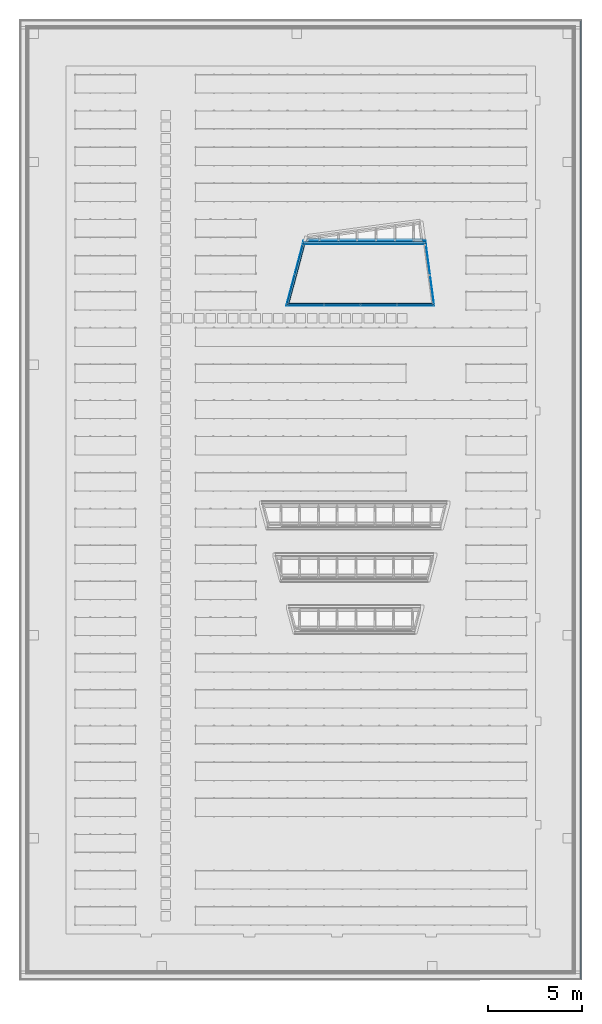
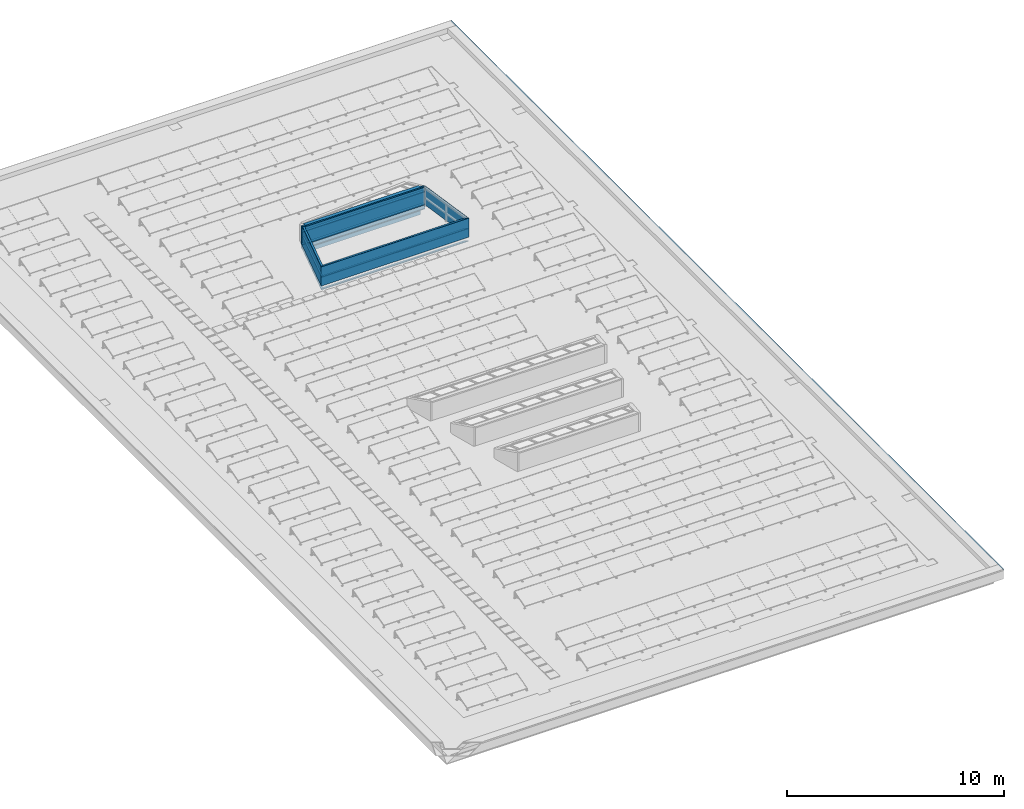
# One storey, part 13 of 20: 20 building element parts, 5 elements without a shape of their own.
"""IFC2X3 building model written with IfcOpenShell, lengths in millimetres."""

import ifcopenshell
import ifcopenshell.guid

model = None  # the IFC model being written
_history = None  # IfcOwnerHistory: only IFC2X3 demands one
_inside = {}  # id of a spatial element -> (the spatial element, [elements in it])
_under = {}  # id of a project, library or spatial element -> (it, [spatial elements below it])
_declared = {}  # id of a project -> (the project, [libraries it declares])
_typed = {}  # id of a type object -> (the type object, [elements of that type])
_made_of = {}  # id of a material, layer set ... -> (it, [elements and type objects made of it])


def new_model(schema):
    """Start an empty IFC model of exactly this schema.

    Asked for "IFC4X3", IfcOpenShell would pick the latest addendum, in which some entities
    have other attributes; the version numbers below select the first issue.
    IFC2X3 requires an IfcOwnerHistory on every rooted entity: one is made here for all.
    """
    global model, _history
    if schema == "IFC4X3":
        model = ifcopenshell.file(schema_version=(4, 3, 0, 0))
    else:
        model = ifcopenshell.file(schema=schema)
    _inside.clear()
    _under.clear()
    _declared.clear()
    _typed.clear()
    _made_of.clear()
    _history = None
    if model.schema == "IFC2X3":
        org = make("IfcOrganization", Name="unknown")
        user = make(
            "IfcPersonAndOrganization",
            ThePerson=make("IfcPerson", FamilyName="unknown"),
            TheOrganization=org,
        )
        app = make(
            "IfcApplication",
            ApplicationDeveloper=org,
            Version="unknown",
            ApplicationFullName="unknown",
            ApplicationIdentifier="unknown",
        )
        _history = make(
            "IfcOwnerHistory",
            OwningUser=user,
            OwningApplication=app,
            ChangeAction="ADDED",
            CreationDate=0,
        )
    return model


def make(cls, **values):
    """One entity of the class cls with the attributes given. An attribute that is None is left unset."""
    return model.create_entity(
        cls, **{name: value for name, value in values.items() if value is not None}
    )


def entity(cls, *values):
    """Any entity or typed value of the class cls, its attributes in the order of the schema. None: left unset."""
    e = model.create_entity(cls)
    for i, value in enumerate(values):
        if value is not None:
            e[i] = value
    return e


def rooted(cls, **values):
    """An entity with a GlobalId (a new one), such as an element, a storey or a relation."""
    return make(cls, GlobalId=ifcopenshell.guid.new(), OwnerHistory=_history, **values)


def si_unit(unit_type, name, prefix=None):
    """IfcSIUnit, for example si_unit("LENGTHUNIT", "METRE", prefix="MILLI")."""
    return make("IfcSIUnit", UnitType=unit_type, Prefix=prefix, Name=name)


def converted_unit(unit_type, name, factor, base, dimensions=None, offset=None):
    """IfcConversionBasedUnit, such as the inch: factor (a typed value) times the base unit."""
    return make(
        "IfcConversionBasedUnit"
        if offset is None
        else "IfcConversionBasedUnitWithOffset",
        ConversionOffset=offset,
        Dimensions=None
        if dimensions is None
        else entity("IfcDimensionalExponents", *dimensions),
        UnitType=unit_type,
        Name=name,
        ConversionFactor=make(
            "IfcMeasureWithUnit", ValueComponent=factor, UnitComponent=base
        ),
    )


def derived_unit(unit_type, elements):
    """IfcDerivedUnit: a product of units, each with its exponent."""
    return make(
        "IfcDerivedUnit",
        Elements=[
            make("IfcDerivedUnitElement", Unit=unit, Exponent=power)
            for unit, power in elements
        ],
        UnitType=unit_type,
    )


def money_unit(currency):
    """IfcMonetaryUnit."""
    return make("IfcMonetaryUnit", Currency=currency)


def assignment(units):
    """IfcUnitAssignment: the units of a project."""
    return None if units is None else make("IfcUnitAssignment", Units=units)


def point(xyz):
    """IfcCartesianPoint."""
    return None if xyz is None else make("IfcCartesianPoint", Coordinates=xyz)


def direction(xyz):
    """IfcDirection."""
    return None if xyz is None else make("IfcDirection", DirectionRatios=xyz)


def frame(location, z_axis=None, x_axis=None):
    """IfcAxis2Placement3D, a coordinate frame: its origin and axes. An axis left out is left unset."""
    return make(
        "IfcAxis2Placement3D",
        Location=point(location),
        Axis=direction(z_axis),
        RefDirection=direction(x_axis),
    )


def origin_with_axes():
    """The frame at (0, 0, 0) with the z axis (0, 0, 1) and the x axis (1, 0, 0) written out."""
    return frame((0.0, 0.0, 0.0), z_axis=(0.0, 0.0, 1.0), x_axis=(1.0, 0.0, 0.0))


def place(relative_to, where):
    """IfcLocalPlacement: puts the frame where relative to a parent placement (None: the world)."""
    return make(
        "IfcLocalPlacement", PlacementRelTo=relative_to, RelativePlacement=where
    )


def context(
    kind, dimensions, precision=None, world=None, true_north=None, identifier=None
):
    """IfcGeometricRepresentationContext, for example the 3D "Model" context."""
    return make(
        "IfcGeometricRepresentationContext",
        ContextIdentifier=identifier,
        ContextType=kind,
        CoordinateSpaceDimension=dimensions,
        Precision=precision,
        WorldCoordinateSystem=world,
        TrueNorth=true_north,
    )


def subcontext(parent, identifier, kind, view, scale=None):
    """IfcGeometricRepresentationSubContext, for example "Body" below "Model"."""
    return make(
        "IfcGeometricRepresentationSubContext",
        ContextIdentifier=identifier,
        ContextType=kind,
        ParentContext=parent,
        TargetScale=scale,
        TargetView=view,
    )


def project(units=None, contexts=None):
    """IfcProject with its units and contexts."""
    return rooted(
        "IfcProject",
        Name="project",
        RepresentationContexts=contexts,
        UnitsInContext=assignment(units),
    )


def spatial(cls, under=None, at=None, **own):
    """A site, building, storey or space (cls), placed at a placement, below another one or the project."""
    s = rooted(cls, ObjectPlacement=at, **own)
    if under is not None:
        _under.setdefault(under.id(), (under, []))[1].append(s)
    return s


def faces_of(points, faces, orient=None, outer=None):
    """IfcFace entities. A face is a list of loops; a loop is a list of indices into points, from 0.

    orient and outer hold one flag for each loop. By default every Orientation is true, the
    first loop of a face is its IfcFaceOuterBound and the others are IfcFaceBound.
    """
    made = []
    for i, loops in enumerate(faces):
        bounds = []
        for j, loop in enumerate(loops):
            is_outer = j == 0 if outer is None else outer[i][j]
            bounds.append(
                make(
                    "IfcFaceOuterBound" if is_outer else "IfcFaceBound",
                    Bound=make("IfcPolyLoop", Polygon=[points[k] for k in loop]),
                    Orientation=True if orient is None else orient[i][j],
                )
            )
        made.append(make("IfcFace", Bounds=bounds))
    return made


def faceted_brep(points, faces, orient=None, outer=None, voids=None):
    """IfcFacetedBrep: a solid bounded by flat faces; with voids (closed shells), ...WithVoids."""
    shared = [point(p) for p in points]
    hull = make("IfcClosedShell", CfsFaces=faces_of(shared, faces, orient, outer))
    if voids is None:
        return make("IfcFacetedBrep", Outer=hull)
    return make(
        "IfcFacetedBrepWithVoids",
        Outer=hull,
        Voids=[
            make(cls, CfsFaces=faces_of(shared, fs, o, b)) for cls, fs, o, b in voids
        ],
    )


def shape(context_of_items, identifier, shape_type, items):
    """IfcShapeRepresentation: the items that make up one representation, for example the "Body"."""
    return make(
        "IfcShapeRepresentation",
        ContextOfItems=context_of_items,
        RepresentationIdentifier=identifier,
        RepresentationType=shape_type,
        Items=items,
    )


def material(Name=None, Category=None):
    """IfcMaterial."""
    return make("IfcMaterial", Name=Name, Category=Category)


def made_of(thing, what):
    """Note that an element or type object is made of a material, layer set ...; save() writes the relation."""
    if what is not None:
        _made_of.setdefault(what.id(), (what, []))[1].append(thing)
    return thing


def type_object(cls, material=None, **own):
    """A type object (cls), such as IfcWallType, which elements share."""
    return made_of(rooted(cls, **own), material)


def element(
    cls,
    number,
    at=None,
    inside=None,
    cuts=None,
    type_object=None,
    material=None,
    context=None,
    identifier="Body",
    shape_type=None,
    held_by="IfcProductDefinitionShape",
    body=None,
    shapes=None,
    **own,
):
    """One element of the class cls, such as IfcWall. Its Tag is "e" and its number.

    at: its placement. inside: the storey or other place that contains it. cuts: it is an
    opening in that element (IfcRelVoidsElement). A single representation is given by context,
    identifier, shape_type and body (its items); several are given by shapes. held_by: the class
    of the entity that holds the representations. save() writes the other relations.
    """
    e = rooted(cls, Tag="e%d" % number, ObjectPlacement=at, **own)
    if body is not None:
        shapes = [shape(context, identifier, shape_type, body)]
    if shapes is not None:
        e.Representation = make(held_by, Representations=shapes)
    if inside is not None:
        _inside.setdefault(inside.id(), (inside, []))[1].append(e)
    if cuts is not None:
        rooted(
            "IfcRelVoidsElement", RelatingBuildingElement=cuts, RelatedOpeningElement=e
        )
    if type_object is not None:
        _typed.setdefault(type_object.id(), (type_object, []))[1].append(e)
    return made_of(e, material)


def aggregate(whole, parts):
    """IfcRelAggregates: a whole, such as a stair, and the parts it consists of."""
    return rooted("IfcRelAggregates", RelatingObject=whole, RelatedObjects=parts)


def save(model, path):
    """Write the relations noted so far, then the file.

    IfcRelAggregates (storeys below a building ...), IfcRelContainedInSpatialStructure (elements
    in a storey), IfcRelDefinesByType, IfcRelAssociatesMaterial and IfcRelDeclares: one each for
    every whole, place, type object, material and project.
    """
    for whole, parts in _under.values():
        aggregate(whole, parts)
    for where, things in _inside.values():
        rooted(
            "IfcRelContainedInSpatialStructure",
            RelatedElements=things,
            RelatingStructure=where,
        )
    for kind, things in _typed.values():
        rooted("IfcRelDefinesByType", RelatedObjects=things, RelatingType=kind)
    for what, things in _made_of.values():
        rooted("IfcRelAssociatesMaterial", RelatedObjects=things, RelatingMaterial=what)
    for by, libraries in _declared.values():
        rooted("IfcRelDeclares", RelatingContext=by, RelatedDefinitions=libraries)
    model.write(path)


model = new_model("IFC2X3")

# Units and contexts
model_context = context("Model", 3, precision=0.01, world=origin_with_axes(), true_north=direction((0.0, 1.0)))
plan_context = context("Plan", 3, precision=0.01, world=origin_with_axes(), true_north=direction((0.0, 1.0)))
body_context = subcontext(model_context, "Body", "Model", "MODEL_VIEW")
ifc_project = project(units=[si_unit("LENGTHUNIT", "METRE", prefix="MILLI"), si_unit("AREAUNIT", "SQUARE_METRE"), si_unit("VOLUMEUNIT", "CUBIC_METRE"), converted_unit("PLANEANGLEUNIT", "DEGREE", entity("IfcPlaneAngleMeasure", 0.0174532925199), si_unit("PLANEANGLEUNIT", "RADIAN"), dimensions=[0, 0, 0, 0, 0, 0, 0]), si_unit("SOLIDANGLEUNIT", "STERADIAN"), money_unit("EUR"), converted_unit("TIMEUNIT", "Year", entity("IfcTimeMeasure", 31556926.0), si_unit("TIMEUNIT", "SECOND"), dimensions=[0, 0, 1, 0, 0, 0, 0]), si_unit("MASSUNIT", "GRAM", prefix="KILO"), si_unit("THERMODYNAMICTEMPERATUREUNIT", "DEGREE_CELSIUS"), si_unit("LUMINOUSINTENSITYUNIT", "LUMEN"), si_unit("ENERGYUNIT", "JOULE", prefix="MEGA"), derived_unit("THERMALCONDUCTANCEUNIT", [(si_unit("POWERUNIT", "WATT"), 1), (si_unit("LENGTHUNIT", "METRE"), -1), (si_unit("THERMODYNAMICTEMPERATUREUNIT", "KELVIN"), -1)]), derived_unit("SPECIFICHEATCAPACITYUNIT", [(si_unit("ENERGYUNIT", "JOULE"), 1), (si_unit("MASSUNIT", "GRAM", prefix="KILO"), -1), (si_unit("THERMODYNAMICTEMPERATUREUNIT", "KELVIN"), -1)]), derived_unit("MASSDENSITYUNIT", [(si_unit("MASSUNIT", "GRAM", prefix="KILO"), 1), (si_unit("VOLUMEUNIT", "CUBIC_METRE"), -1)])], contexts=[model_context, plan_context])

# Site, building, storey
site_placement = place(None, origin_with_axes())
site = spatial("IfcSite", under=ifc_project, at=site_placement, Name="Site", CompositionType="ELEMENT")
building_placement = place(site_placement, origin_with_axes())
building = spatial("IfcBuilding", under=site, at=building_placement, Name="Naam gebouw", CompositionType="ELEMENT")
storey_placement = place(building_placement, frame((0.0, 0.0, 7920.0), z_axis=(0.0, 0.0, 1.0), x_axis=(1.0, 0.0, 0.0)))
storey = spatial("IfcBuildingStorey", under=building, at=storey_placement, Name="2e verdieping", CompositionType="ELEMENT", Elevation=7920.0)

# Wall, building element part
wall_type_1 = type_object("IfcWallType", Name="_TenW_27_dakrand_01 473 x 542", PredefinedType="NOTDEFINED")
wall_1_placement = place(storey_placement, frame((29200.0, 0.0, 0.0), z_axis=(0.0, 0.0, 1.0), x_axis=(0.0, 1.0, 0.0)))
wall_1 = element("IfcWall", 1, at=wall_1_placement, inside=storey, type_object=wall_type_1, Name="21_Wand_Wand-x")
ifc_material_1 = material(Name="Metaal - Aluminium")
building_element_part_1_placement = place(wall_1_placement, origin_with_axes())
building_element_part_1 = element("IfcBuildingElementPart", 2, at=building_element_part_1_placement, material=ifc_material_1, Name="Metaal - Aluminium", context=body_context, shape_type="Brep", body=[
    faceted_brep([(-323.047997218, -323.047997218, 542.256350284), (-323.047997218, -334.046316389, 542.256350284), (50723.0479972, -334.046316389, 542.256350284), (50723.0479972, -323.047997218, 542.256350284), (-323.047997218, -334.046316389, 540.292434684), (-323.047997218, -323.047997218, 540.292434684), (-323.047997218, -332.046318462, 540.292434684), (-332.046318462, -334.046316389, 540.292434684), (-332.046318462, -334.046316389, 528.546859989), (-277.984623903, -334.046316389, 528.546859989), (-277.984633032, -334.046316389, 527.060685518), (-277.984623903, -334.046316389, 526.54685988), (-323.318138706, -334.046316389, 526.546857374), (-332.046318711, -334.046316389, 526.546858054), (-332.046318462, -334.046316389, 474.418140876), (-326.081756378, -334.046316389, 474.418140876), (-326.081756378, -334.046316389, 472.223595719), (50726.0817564, -334.046316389, 472.223595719), (50726.0817564, -334.046316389, 474.418140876), (50732.0463185, -334.046316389, 474.418140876), (50732.0463187, -334.046316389, 526.546858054), (50723.3181387, -334.046316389, 526.546857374), (50677.9846239, -334.046316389, 526.54685988), (50677.984633, -334.046316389, 527.060685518), (50677.9846239, -334.046316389, 528.546859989), (50732.0463185, -334.046316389, 528.546859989), (50732.0463185, -334.046316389, 540.292434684), (50723.0479972, -334.046316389, 540.292434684), (50723.0479972, -323.047997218, 540.292434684), (50723.0479972, -332.046318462, 540.292434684), (-332.046318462, -332.046318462, 540.292434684), (-332.046318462, -332.046318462, 528.546859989), (-277.984623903, -332.046318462, 528.546859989), (-277.984623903, -277.984623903, 528.546859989), (-277.984633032, -277.984633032, 527.060685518), (-277.984623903, -332.046318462, 526.54685988), (-277.984623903, -277.984623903, 526.54685988), (-277.984623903, -323.318138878, 526.54685988), (-323.318138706, -332.046318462, 526.546857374), (-332.046318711, -332.046318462, 526.546856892), (-332.046318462, -332.046318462, 474.418140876), (-326.081756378, -332.046318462, 474.418140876), (-326.081756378, -326.081756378, 474.418140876), (-326.081756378, -326.081756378, 472.223595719), (50726.0817564, -326.081756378, 472.223595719), (50726.0817564, -326.081756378, 474.418140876), (50726.0817564, -332.046318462, 474.418140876), (50732.0463185, -332.046318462, 474.418140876), (50732.0463187, -332.046318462, 526.54685832), (50723.3181387, -332.046318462, 526.546857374), (50677.9846239, -332.046318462, 526.54685988), (50677.9846239, -323.318138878, 526.54685988), (50677.9846239, -277.984623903, 526.54685988), (50677.984633, -277.984633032, 527.060685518), (50677.9846239, -277.984623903, 528.546859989), (50677.9846239, -332.046318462, 528.546859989), (50732.0463185, -332.046318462, 528.546859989), (50732.0463185, -332.046318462, 540.292434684)], [[[0, 1, 2, 3]], [[4, 1, 0, 5, 6]], [[7, 8, 9, 10, 11, 12, 13, 14, 15, 16, 17, 18, 19, 20, 21, 22, 23, 24, 25, 26, 27, 2, 1, 4]], [[28, 3, 2, 27, 29]], [[5, 0, 3, 28]], [[6, 5, 28, 29]], [[7, 4, 6, 30]], [[7, 30, 31, 8]], [[31, 32, 9, 8]], [[33, 34, 10, 9, 32]], [[35, 11, 10, 34, 36, 37]], [[12, 11, 35, 38]], [[13, 12, 38, 39]], [[13, 39, 40, 14]], [[15, 14, 40, 41]], [[42, 43, 16, 15, 41]], [[16, 43, 44, 17]], [[44, 45, 46, 18, 17]], [[47, 19, 18, 46]], [[47, 48, 20, 19]], [[49, 21, 20, 48]], [[50, 22, 21, 49]], [[50, 51, 52, 53, 23, 22]], [[53, 54, 55, 24, 23]], [[24, 55, 56, 25]], [[56, 57, 26, 25]], [[29, 27, 26, 57]], [[30, 6, 29, 57, 56, 55, 32, 31]], [[54, 53, 34, 33]], [[55, 54, 33, 32]], [[36, 34, 53, 52]], [[37, 36, 52, 51]], [[35, 37, 51, 50]], [[46, 41, 40, 39, 38, 35, 50, 49, 48, 47]], [[43, 42, 45, 44]], [[42, 41, 46, 45]]]),
])
aggregate(wall_1, [building_element_part_1])

# Wall, building element parts
wall_type_2 = type_object("IfcWallType", Name="_TenW_27_lichtstraatrand 01 331 x 1666", PredefinedType="NOTDEFINED")
wall_2_placement = place(storey_placement, frame((21095.7215263, 38964.1967219, 0.0), z_axis=(0.0, 0.0, 1.0), x_axis=(-1.0, -1.62874190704e-08, 0.0)))
wall_2 = element("IfcWall", 3, at=wall_2_placement, inside=storey, type_object=wall_type_2, Name="21_Wand_Wand-x")
ifc_material_2 = material(Name="Hout - Multiplex groen")
building_element_part_2_placement = place(wall_2_placement, origin_with_axes())
building_element_part_2 = element("IfcBuildingElementPart", 4, at=building_element_part_2_placement, material=ifc_material_2, Name="Hout - Multiplex groen", context=body_context, shape_type="Brep", body=[
    faceted_brep([(-170.330878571, 139.999712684, 1303.63493849), (-172.356514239, 154.955834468, 1309.11564933), (-172.361344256, 154.991492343, 245.0), (-170.330876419, 139.999696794, 245.0), (-20.9870289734, 154.956079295, 1301.73832211), (-18.9613597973, 139.999710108, 1296.25752061), (-20.9869695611, 154.955640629, 1314.82668066), (5.26112486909e-06, 154.955640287, 1314.82668066), (5.26112131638e-06, 154.955420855, 1321.37430351), (6198.10588375, 154.955319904, 1321.37430351), (6198.10588375, 154.956526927, 1285.35806811), (6390.5870164, 154.956523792, 1285.35806811), (6390.59557325, 154.991385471, 245.0), (-20.9917744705, 154.991494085, 245.0), (-151.369513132, 154.991496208, 245.0), (6386.91625191, 139.999589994, 245.0), (6386.91625575, 139.999605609, 1285.35806811), (6198.1058835, 139.999608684, 1285.35806811), (6198.1058835, 139.999609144, 1315.97099684), (5.01753305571e-06, 139.999710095, 1315.97099684), (5.01753305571e-06, 139.999710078, 1314.82668066), (-18.961359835, 139.999710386, 1314.82668066)], [[[0, 1, 2, 3]], [[4, 1, 0, 5]], [[4, 6, 7, 8, 9, 10, 11, 12, 13, 14, 2, 1]], [[3, 2, 14, 13, 12, 15]], [[5, 0, 3, 15, 16, 17, 18, 19, 20, 21]], [[21, 6, 4, 5]], [[6, 21, 20, 7]], [[8, 7, 20, 19]], [[8, 19, 18, 9]], [[17, 10, 9, 18]], [[11, 10, 17, 16]], [[16, 15, 12, 11]]]),
])
ifc_material_3 = material(Name="Isolatie - Kunststof hard")
building_element_part_3_placement = place(wall_2_placement, origin_with_axes())
building_element_part_3 = element("IfcBuildingElementPart", 5, at=building_element_part_3_placement, material=ifc_material_3, Name="Isolatie - Kunststof hard", context=body_context, shape_type="Brep", body=[
    faceted_brep([(-151.369518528, 7.5993966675e-07, 1000.00000178), (6352.55721045, -0.000105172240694, 1000.00000178), (6352.55721142, -0.000101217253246, 1215.261279), (-151.369519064, 4.71493422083e-06, 1215.261279), (-170.330878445, 139.999711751, 999.846726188), (6386.91625559, 139.99960495, 999.846726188), (6386.91625559, 139.99960495, 1215.1080034), (-170.330878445, 139.999711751, 1215.1080034)], [[[0, 1, 2, 3]], [[4, 5, 1, 0]], [[5, 6, 2, 1]], [[3, 2, 6, 7]], [[0, 3, 7, 4]], [[7, 6, 5, 4]]]),
])
building_element_part_4_placement = place(wall_2_placement, origin_with_axes())
building_element_part_4 = element("IfcBuildingElementPart", 6, at=building_element_part_4_placement, material=ifc_material_3, Name="Isolatie - Kunststof hard", context=body_context, shape_type="Brep", body=[
    faceted_brep([(-151.36951931, 6.53259490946e-06, 289.999999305), (6352.55721187, -9.93995854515e-05, 289.999999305), (6352.55720927, -0.000109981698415, 950.00000856), (-151.369517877, -4.04951805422e-06, 950.00000856), (-170.330878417, 139.999711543, 289.846727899), (6386.91625553, 139.999604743, 289.846727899), (6386.91625553, 139.999604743, 949.846726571), (-170.330878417, 139.999711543, 949.846726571)], [[[0, 1, 2, 3]], [[4, 5, 1, 0]], [[5, 6, 2, 1]], [[3, 2, 6, 7]], [[0, 3, 7, 4]], [[7, 6, 5, 4]]]),
])
building_element_part_5_placement = place(wall_2_placement, origin_with_axes())
building_element_part_5 = element("IfcBuildingElementPart", 7, at=building_element_part_5_placement, material=ifc_material_3, Name="Isolatie - Kunststof hard", context=body_context, shape_type="Brep", body=[
    faceted_brep([(6352.55721087, -0.000103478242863, 49.9999968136), (6352.55721087, -0.000103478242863, 240.000005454), (-151.369518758, 2.45393749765e-06, 240.000005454), (-151.369518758, 2.45393749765e-06, 49.9999968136), (6386.91625553, 139.999604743, 239.846731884), (6386.91625553, 139.999604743, 49.8467196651), (-170.330878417, 139.999711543, 239.846731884), (-170.330878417, 139.999711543, 49.8467196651)], [[[0, 1, 2, 3]], [[4, 1, 0, 5]], [[1, 4, 6, 2]], [[2, 6, 7, 3]], [[5, 0, 3, 7]], [[4, 5, 7, 6]]]),
])
ifc_material_4 = material(Name="Hout C")
building_element_part_6_placement = place(wall_2_placement, origin_with_axes())
building_element_part_6 = element("IfcBuildingElementPart", 8, at=building_element_part_6_placement, material=ifc_material_4, Name="Hout C", context=body_context, shape_type="Brep", body=[
    faceted_brep([(5.01753305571e-06, 139.999708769, 0.0), (3.1801953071e-05, 9.35042905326e-05, 0.0), (-151.369518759, 2.46541986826e-06, -1.09201536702e-06), (-170.330878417, 139.999711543, -1.09201536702e-06), (6198.1058835, 139.999607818, 0.0), (6198.10587666, -7.44685735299e-06, 0.0), (6352.55721087, -0.000103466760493, -1.09201536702e-06), (6352.55721087, -0.000103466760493, 49.9999951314), (-151.369518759, 2.46541986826e-06, 49.9999951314), (-170.330878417, 139.999711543, 49.8467204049), (6386.91625553, 139.999604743, 49.8467204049), (6386.91625553, 139.999604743, -1.09201536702e-06)], [[[0, 1, 2, 3]], [[1, 0, 4, 5]], [[1, 5, 6, 7, 8, 2]], [[9, 3, 2, 8]], [[4, 0, 3, 9, 10, 11]], [[5, 4, 11, 6]], [[7, 6, 11, 10]], [[8, 7, 10, 9]]]),
])
building_element_part_7_placement = place(wall_2_placement, origin_with_axes())
building_element_part_7 = element("IfcBuildingElementPart", 9, at=building_element_part_7_placement, material=ifc_material_4, Name="Hout C", context=body_context, shape_type="Brep", body=[
    faceted_brep([(6352.55721087, -0.000103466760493, 240.000004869), (6352.55721087, -0.000103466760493, 290.0), (-151.369518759, 2.46541986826e-06, 290.0), (-151.369518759, 2.46541986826e-06, 240.000004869), (6386.91625553, 139.999604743, 289.846725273), (6386.91625494, 139.999602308, 239.846725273), (-170.330878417, 139.999711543, 289.846725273), (-170.330878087, 139.999709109, 239.846725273)], [[[0, 1, 2, 3]], [[4, 1, 0, 5]], [[1, 4, 6, 2]], [[2, 6, 7, 3]], [[5, 0, 3, 7]], [[4, 5, 7, 6]]]),
])
building_element_part_8_placement = place(wall_2_placement, origin_with_axes())
building_element_part_8 = element("IfcBuildingElementPart", 10, at=building_element_part_8_placement, material=ifc_material_4, Name="Hout C", context=body_context, shape_type="Brep", body=[
    faceted_brep([(-151.369518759, 2.46541986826e-06, 950.000004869), (6352.55721087, -0.000103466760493, 950.000004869), (6352.55721087, -0.000103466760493, 1000.0), (-151.369518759, 2.46541986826e-06, 1000.0), (-170.330878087, 139.999709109, 949.846725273), (6386.91625494, 139.999602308, 949.846725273), (6386.91625553, 139.999604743, 999.846725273), (-170.330878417, 139.999711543, 999.846725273)], [[[0, 1, 2, 3]], [[4, 5, 1, 0]], [[5, 6, 2, 1]], [[3, 2, 6, 7]], [[0, 3, 7, 4]], [[7, 6, 5, 4]]]),
])
building_element_part_9_placement = place(wall_2_placement, origin_with_axes())
building_element_part_9 = element("IfcBuildingElementPart", 11, at=building_element_part_9_placement, material=ifc_material_4, Name="Hout C", context=body_context, shape_type="Brep", body=[
    faceted_brep([(6352.55721087, -0.000103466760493, 1260.11911641), (6198.10585371, -0.000100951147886, 1246.85658602), (6198.10585371, -0.000100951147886, 1265.26127225), (0.0, 0.0, 1265.26127225), (0.0, 0.0, 1244.95425226), (-151.369518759, 2.46541986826e-06, 1252.3316701), (-151.369518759, 2.46541986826e-06, 1215.26127712), (6352.55721087, -0.000103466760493, 1215.26127712), (6369.25517702, 68.0375970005, 1285.35806811), (6223.57824466, 103.789958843, 1285.35806811), (6211.72270327, 55.483250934, 1285.35806811), (6198.10588213, 55.4832511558, 1285.35806811), (6198.1058835, 139.999608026, 1315.97099805), (5.01753305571e-06, 139.999708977, 1315.97099805), (4.96607555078e-06, 136.8404708, 1314.82668066), (-18.5334770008, 136.840471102, 1314.82668066), (-18.9613596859, 139.999709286, 1314.82668066), (-18.9613596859, 139.999709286, 1296.2575203), (-170.330878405, 139.999711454, 1303.63493804), (-170.330878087, 139.999709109, 1215.10799752), (6386.91625494, 139.999602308, 1215.10799752), (6386.91625559, 139.99960495, 1285.35806811), (6198.1058835, 139.999608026, 1285.35806811), (5.01753305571e-06, 139.999708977, 1314.82668066)], [[[0, 1, 2, 3, 4, 5, 6, 7]], [[1, 0, 8, 9]], [[10, 2, 1, 9]], [[2, 10, 11, 12, 13, 14, 15, 3]], [[15, 16, 17, 4, 3]], [[17, 18, 5, 4]], [[5, 18, 19, 6]], [[19, 20, 7, 6]], [[8, 0, 7, 20, 21]], [[9, 8, 21, 22, 11, 10]], [[22, 12, 11]], [[17, 16, 23, 13, 12, 22, 21, 20, 19, 18]], [[23, 14, 13]], [[16, 15, 14, 23]]]),
])
ifc_material_5 = material(Name="Hout - Multiplex wit")
building_element_part_10_placement = place(wall_2_placement, origin_with_axes())
building_element_part_10 = element("IfcBuildingElementPart", 12, at=building_element_part_10_placement, material=ifc_material_5, Name="Hout - Multiplex wit", context=body_context, shape_type="Brep", body=[
    faceted_brep([(6348.87587773, -15.0001004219, 1254.5547867), (6194.42452057, -15.0000979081, 1241.29225631), (6194.42452057, -15.0000979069, 1260.28052611), (2.03157807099, -14.9999970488, 1260.28052611), (2.03157807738, -14.999997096, 1239.45746319), (-149.337940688, -14.9999945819, 1246.83488105), (-149.337940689, -14.9999945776, 1206.58182347), (2.03157805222, -14.9999969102, 1206.58182347), (2.03157884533, -14.9999970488, 240.000004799), (2.03157805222, -14.9999969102, 0.0), (2.03162187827, -14.999996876, -340.0), (6194.08661432, -15.0000977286, -340.0), (6194.08661431, -15.0000977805, 245.0), (6194.42452061, -15.000097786, 245.0), (6194.42452061, -15.0000977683, 1206.58182347), (6348.87587773, -15.0001004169, 1206.58182347), (6352.55721181, -9.9613160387e-05, 1260.11911784), (6198.1058761, -9.70482005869e-06, 1246.85661987), (6198.10585466, -9.70975477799e-05, 1265.26127855), (-5.21925613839e-07, 3.85360010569e-06, 1265.26127855), (-6.47416342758e-06, 4.78014783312e-05, 1244.95426977), (-151.369519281, 6.31901997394e-06, 1252.33167151), (-151.369519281, 6.31901997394e-06, 1206.58182347), (-5.21925613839e-07, 3.85360010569e-06, 1206.58182347), (-4.74894790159e-07, 3.50635076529e-06, 240.000004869), (-4.63217020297e-07, 3.42012640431e-06, 0.0), (2.73729838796e-06, 7.29086480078e-06, -340.0), (6198.10588122, -9.36602830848e-05, -340.0), (6198.10585617, -9.09477790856e-05, 0.0), (6198.10587666, -7.44685735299e-06, 245.0), (6198.10585466, -9.70975477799e-05, 1206.58182347), (6352.55721181, -9.9613160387e-05, 1206.58182347)], [[[0, 1, 2, 3, 4, 5, 6, 7, 8, 9, 10, 11, 12, 13, 14, 15]], [[1, 0, 16, 17]], [[18, 2, 1, 17]], [[2, 18, 19, 3]], [[3, 19, 20, 4]], [[20, 21, 5, 4]], [[5, 21, 22, 6]], [[22, 23, 7, 6]], [[7, 23, 24, 8]], [[8, 24, 25, 9]], [[25, 26, 10, 9]], [[26, 27, 11, 10]], [[11, 27, 28, 29, 12]], [[12, 29, 13]], [[13, 29, 30, 14]], [[14, 30, 31, 15]], [[16, 0, 15, 31]], [[17, 16, 31, 30, 29, 28, 25, 24, 23, 22, 21, 20, 19, 18]], [[28, 27, 26, 25]]]),
])
building_element_part_11_placement = place(wall_2_placement, origin_with_axes())
building_element_part_11 = element("IfcBuildingElementPart", 13, at=building_element_part_11_placement, material=ifc_material_1, Name="Metaal - Aluminium", context=body_context, shape_type="Brep", body=[
    faceted_brep([(6157.02433934, -167.391251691, 1206.58182347), (6156.859672, -168.062206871, 1208.46591984), (22.7620905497, -168.062106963, 1208.46591984), (22.6712173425, -167.391151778, 1206.58182347), (6175.66131543, -91.4528418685, 1235.74767224), (6211.31421196, 53.8188081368, 1285.35806811), (6210.21333087, 49.3331469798, 1285.35806811), (12.3862280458, -91.4527414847, 1235.74767224), (-18.0079439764, 132.960239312, 1314.82668066), (-18.4967303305, 136.56915495, 1314.82668066), (4.96165597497e-06, 136.569154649, 1314.82668066), (5.36467226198e-06, 161.31299662, 1323.63833662), (6198.10588385, 161.312895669, 1323.63833662), (6198.1058821, 53.818808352, 1285.35806811), (6198.10588203, 49.333147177, 1285.35806811), (6198.10588388, 163.312893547, 1325.52243375), (5.3972470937e-06, 163.312995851, 1325.52243422), (4.90287632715e-06, 132.960239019, 1314.82668066), (5.3972470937e-06, 163.312995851, 1314.82668066), (5.36467226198e-06, 161.31299662, 1314.82668066), (-21.84800078, 161.312996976, 1304.0678316), (-173.217519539, 161.312999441, 1311.44524945), (-173.217519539, 161.312999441, 1257.83227189), (6392.14701077, 161.312892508, 1257.83227189), (6392.14701077, 161.312892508, 1285.35806811), (6198.10588385, 161.312895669, 1285.35806811), (-21.84800078, 161.312996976, 1314.82668066), (6198.10588388, 163.312893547, 1285.35806811), (-22.1188776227, 163.312994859, 1304.80073618), (-22.1188778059, 163.312996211, 1314.82668066), (6392.63785528, 163.312890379, 1285.35806811), (6392.63785528, 163.3128925, 1257.83227189), (-173.488396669, 163.312999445, 1257.83227189), (-173.488396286, 163.31299662, 1312.17815376)], [[[0, 1, 2, 3]], [[4, 1, 0, 5, 6]], [[1, 4, 7, 2]], [[8, 9, 3, 2, 7]], [[5, 0, 3, 9, 10, 11, 12, 13]], [[6, 5, 13, 14]], [[4, 6, 14, 15, 16, 17, 8, 7]], [[9, 8, 17, 10]], [[10, 17, 16, 18, 19, 11]], [[20, 21, 22, 23, 24, 25, 12, 11, 19, 26]], [[27, 15, 14, 13, 12, 25]], [[28, 29, 18, 16, 15, 27, 30, 31, 32, 33]], [[29, 26, 19, 18]], [[28, 33, 21, 20]], [[21, 33, 32, 22]], [[32, 31, 23, 22]], [[31, 30, 24, 23]], [[27, 25, 24, 30]], [[26, 29, 28, 20]]]),
])
aggregate(wall_2, [building_element_part_2, building_element_part_3, building_element_part_4, building_element_part_5, building_element_part_6, building_element_part_7, building_element_part_8, building_element_part_9, building_element_part_10, building_element_part_11])

# Beam, building element part
beam_type = type_object("IfcBeamType", Name="_TenW_27_installatiescherm 01 115 x 1322", PredefinedType="BEAM")
beam_1_placement = place(storey_placement, frame((21532.6695952, 35700.7724313, 0.0), z_axis=(0.0, 0.0, 1.0), x_axis=(0.990952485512, 0.134213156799, 0.0)))
beam_1 = element("IfcBeam", 14, at=beam_1_placement, inside=storey, type_object=beam_type, Name="28_Balk_Regenwaterafvoer-x", ObjectType="BEAM")
ifc_material_6 = material(Name="Hout - Multiplex")
building_element_part_12_placement = place(beam_1_placement, origin_with_axes())
building_element_part_12 = element("IfcBuildingElementPart", 15, at=building_element_part_12_placement, material=ifc_material_6, Name="Hout - Multiplex", context=body_context, shape_type="Brep", body=[
    faceted_brep([(139.999712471, -160.239283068, 245.0), (154.99149301, -177.398405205, 245.0), (154.955420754, -177.357118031, 1321.37430784), (139.999718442, -160.239289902, 1315.97099277), (139.999708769, -160.239278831, 1307.97099805), (139.999708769, -160.239278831, 1227.97099805), (139.999708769, -160.239278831, 1219.97099805), (139.999718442, -160.239289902, 743.463425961), (139.99969875, -160.239267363, 693.46341882), (154.99149301, 3107.42274893, 245.0), (139.999712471, 3107.42274893, 245.0), (154.955420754, 3107.42274893, 1321.37430784), (139.999718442, 3107.42274893, 1315.97099277), (139.999708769, 3107.42274893, 1307.97099805), (139.999708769, 3107.42274893, 1227.97099805), (139.999708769, 3107.42274893, 1219.97099805), (139.999718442, 3107.42274893, 743.463425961), (139.99969875, 3107.42274893, 693.46341882)], [[[0, 1, 2, 3, 4, 5, 6, 7, 8]], [[9, 1, 0, 10]], [[1, 9, 11, 2]], [[2, 11, 12, 3]], [[3, 12, 13, 4]], [[4, 13, 14, 5]], [[5, 14, 15, 6]], [[6, 15, 16, 7]], [[7, 16, 17, 8]], [[10, 0, 8, 17]], [[9, 10, 17, 16, 15, 14, 13, 12, 11]]]),
])
aggregate(beam_1, [building_element_part_12])

# Beam, building element parts
beam_2_placement = place(storey_placement, frame((14852.1238374, 38760.9484228, 0.0), z_axis=(0.0, 0.0, 1.0), x_axis=(-0.965925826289, 0.258819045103, 0.0)))
beam_2 = element("IfcBeam", 16, at=beam_2_placement, inside=storey, type_object=beam_type, Name="28_Balk_Regenwaterafvoer-x", ObjectType="BEAM")
building_element_part_13_placement = place(beam_2_placement, origin_with_axes())
building_element_part_13 = element("IfcBuildingElementPart", 17, at=building_element_part_13_placement, material=ifc_material_6, Name="Hout - Multiplex", context=body_context, shape_type="Brep", body=[
    faceted_brep([(139.999712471, 3350.57848935, 245.0), (139.999712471, 0.0, 245.0), (139.99969875, 0.0, 693.46341882), (139.99969875, 3350.57847147, 693.46341882), (154.99149301, 0.0, 245.0), (154.99149301, 3370.11615813, 245.0), (154.955420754, 0.0, 1321.37430784), (139.999718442, 0.0, 1315.97099277), (139.999708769, 0.0, 1307.97099805), (139.999708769, 0.0, 1227.97099805), (139.999708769, 0.0, 1219.97099805), (139.999718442, 0.0, 743.463425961), (139.999718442, 3350.57849713, 743.463425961), (139.999708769, 3350.57848453, 1219.97099805), (139.999708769, 3350.57848453, 1227.97099805), (139.999708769, 3350.57848453, 1307.97099805), (139.999718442, 3350.57849713, 1315.97099277), (154.955420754, 3370.06914785, 1321.37430784)], [[[0, 1, 2, 3]], [[4, 1, 0, 5]], [[1, 4, 6, 7, 8, 9, 10, 11, 2]], [[2, 11, 12, 3]], [[5, 0, 3, 12, 13, 14, 15, 16, 17]], [[4, 5, 17, 6]], [[7, 6, 17, 16]], [[8, 7, 16, 15]], [[9, 8, 15, 14]], [[10, 9, 14, 13]], [[11, 10, 13, 12]]]),
])
ifc_material_7 = material(Name="Metaal - Staal AFW")
building_element_part_14_placement = place(beam_2_placement, origin_with_axes())
building_element_part_14 = element("IfcBuildingElementPart", 18, at=building_element_part_14_placement, material=ifc_material_7, Name="Metaal - Staal AFW", context=body_context, shape_type="Brep", body=[
    faceted_brep([(139.999708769, 3350.57848453, 1219.97099805), (139.999708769, 3350.57848453, 1227.97099805), (139.999708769, 0.0, 1227.97099805), (139.999708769, 0.0, 1219.97099805), (39.999708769, 3220.25594724, 1219.97099805), (39.999708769, 3220.25594724, 1227.97099805), (75.499708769, 3266.52044798, 1227.97099805), (83.9849901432, 3277.57868196, 1231.48571668), (87.499708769, 3282.15915245, 1239.97099805), (87.499708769, 3282.15915245, 1295.97099805), (83.9849901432, 3277.57868196, 1304.45627943), (75.499708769, 3266.52044798, 1307.97099805), (39.999708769, 3220.25594724, 1307.97099805), (39.999708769, 3220.25594724, 1315.97099805), (139.999708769, 3350.57848453, 1315.97099805), (139.999708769, 3350.57848453, 1307.97099805), (104.499708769, 3304.31398379, 1307.97099805), (96.0144273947, 3293.25574981, 1304.45627943), (92.499708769, 3288.67527932, 1295.97099805), (92.499708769, 3288.67527932, 1239.97099805), (96.0144273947, 3293.25574981, 1231.48571668), (104.499708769, 3304.31398379, 1227.97099805), (104.499708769, 0.0, 1227.97099805), (96.0144273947, 0.0, 1231.48571668), (92.499708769, 0.0, 1239.97099805), (92.499708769, 0.0, 1295.97099805), (96.0144273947, 0.0, 1304.45627943), (104.499708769, 0.0, 1307.97099805), (139.999708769, 0.0, 1307.97099805), (139.999708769, 0.0, 1315.97099805), (39.999708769, 0.0, 1315.97099805), (39.999708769, 0.0, 1307.97099805), (75.499708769, 0.0, 1307.97099805), (83.9849901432, 0.0, 1304.45627943), (87.499708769, 0.0, 1295.97099805), (87.499708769, 0.0, 1239.97099805), (83.9849901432, 0.0, 1231.48571668), (75.499708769, 0.0, 1227.97099805), (39.999708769, 0.0, 1227.97099805), (39.999708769, 0.0, 1219.97099805)], [[[0, 1, 2, 3]], [[0, 4, 5, 6, 7, 8, 9, 10, 11, 12, 13, 14, 15, 16, 17, 18, 19, 20, 21, 1]], [[1, 21, 22, 2]], [[3, 2, 22, 23, 24, 25, 26, 27, 28, 29, 30, 31, 32, 33, 34, 35, 36, 37, 38, 39]], [[4, 0, 3, 39]], [[5, 4, 39, 38]], [[6, 5, 38, 37]], [[7, 6, 37, 36]], [[8, 7, 36, 35]], [[9, 8, 35, 34]], [[10, 9, 34, 33]], [[11, 10, 33, 32]], [[12, 11, 32, 31]], [[13, 12, 31, 30]], [[14, 13, 30, 29]], [[15, 14, 29, 28]], [[16, 15, 28, 27]], [[17, 16, 27, 26]], [[18, 17, 26, 25]], [[19, 18, 25, 24]], [[20, 19, 24, 23]], [[21, 20, 23, 22]]]),
])
building_element_part_15_placement = place(beam_2_placement, origin_with_axes())
building_element_part_15 = element("IfcBuildingElementPart", 19, at=building_element_part_15_placement, material=ifc_material_4, Name="Hout C", context=body_context, shape_type="Brep", body=[
    faceted_brep([(39.999708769, 3220.25594724, -7.59371232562e-07), (39.999708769, 0.0, -7.59371232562e-07), (39.999708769, 0.0, 49.9999951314), (39.999708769, 3220.25594724, 49.9999951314), (139.999706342, 0.0, -7.59371232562e-07), (139.999706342, 3350.57848136, -7.59371232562e-07), (139.999708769, 0.0, 49.8467204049), (139.999708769, 3350.57848453, 49.8467204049)], [[[0, 1, 2, 3]], [[4, 1, 0, 5]], [[1, 4, 6, 2]], [[6, 7, 3, 2]], [[5, 0, 3, 7]], [[4, 5, 7, 6]]]),
])
building_element_part_16_placement = place(beam_2_placement, origin_with_axes())
building_element_part_16 = element("IfcBuildingElementPart", 20, at=building_element_part_16_placement, material=ifc_material_4, Name="Hout C", context=body_context, shape_type="Brep", body=[
    faceted_brep([(139.999706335, 3350.57848135, 693.463416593), (139.999708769, 3350.57848453, 743.463416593), (139.999708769, 0.0, 743.463416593), (139.999706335, 0.0, 693.463416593), (39.999708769, 3220.25594724, 693.616696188), (39.999708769, 3220.25594724, 743.61669132), (39.999708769, 0.0, 743.61669132), (39.999708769, 0.0, 693.616696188)], [[[0, 1, 2, 3]], [[0, 4, 5, 1]], [[1, 5, 6, 2]], [[3, 2, 6, 7]], [[4, 0, 3, 7]], [[5, 4, 7, 6]]]),
])
aggregate(beam_2, [building_element_part_13, building_element_part_14, building_element_part_15, building_element_part_16])

beam_3_placement = place(storey_placement, frame((14032.1521518, 35700.7724313, 0.0), z_axis=(0.0, 0.0, 1.0), x_axis=(0.0, -1.0, 0.0)))
beam_3 = element("IfcBeam", 21, at=beam_3_placement, inside=storey, type_object=beam_type, Name="28_Balk_Regenwaterafvoer-x", ObjectType="BEAM")
building_element_part_17_placement = place(beam_3_placement, origin_with_axes())
building_element_part_17 = element("IfcBuildingElementPart", 22, at=building_element_part_17_placement, material=ifc_material_6, Name="Hout - Multiplex", context=body_context, shape_type="Brep", body=[
    faceted_brep([(154.99149301, -201.988846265, 245.0), (154.99149301, 7677.91584865, 245.0), (154.955420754, 7677.87456148, 1321.37430784), (154.955420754, -201.941835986, 1321.37430784), (139.999712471, 7660.75672651, 245.0), (139.999712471, -182.451177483, 245.0), (139.99969875, 7660.75671081, 693.46341882), (139.999718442, 7660.75673335, 743.463425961), (139.999708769, 7660.75672228, 1219.97099805), (139.999708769, 7660.75672228, 1227.97099805), (139.999708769, 7660.75672228, 1307.97099805), (139.999718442, 7660.75673335, 1315.97099277), (139.999718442, -182.451185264, 1315.97099277), (139.999708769, -182.451172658, 1307.97099805), (139.999708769, -182.451172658, 1227.97099805), (139.999708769, -182.451172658, 1219.97099805), (139.999718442, -182.451185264, 743.463425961), (139.99969875, -182.451159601, 693.46341882)], [[[0, 1, 2, 3]], [[4, 1, 0, 5]], [[1, 4, 6, 7, 8, 9, 10, 11, 2]], [[3, 2, 11, 12]], [[5, 0, 3, 12, 13, 14, 15, 16, 17]], [[4, 5, 17, 6]], [[16, 7, 6, 17]], [[15, 8, 7, 16]], [[14, 9, 8, 15]], [[13, 10, 9, 14]], [[12, 11, 10, 13]]]),
])
building_element_part_18_placement = place(beam_3_placement, origin_with_axes())
building_element_part_18 = element("IfcBuildingElementPart", 23, at=building_element_part_18_placement, material=ifc_material_7, Name="Metaal - Staal AFW", context=body_context, shape_type="Brep", body=[
    faceted_brep([(139.999708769, 7660.75672228, 1219.97099805), (139.999708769, 7660.75672228, 1227.97099805), (139.999708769, -182.451172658, 1227.97099805), (139.999708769, -182.451172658, 1219.97099805), (39.999708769, 7546.29985645, 1219.97099805), (39.999708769, 7546.29985645, 1227.97099805), (75.499708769, 7586.93204382, 1227.97099805), (83.9849901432, 7596.64403093, 1231.48571668), (87.499708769, 7600.66686772, 1239.97099805), (87.499708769, 7600.66686772, 1295.97099805), (83.9849901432, 7596.64403093, 1304.45627943), (75.499708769, 7586.93204382, 1307.97099805), (39.999708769, 7546.29985645, 1307.97099805), (39.999708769, 7546.29985645, 1315.97099805), (139.999708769, 7660.75672228, 1315.97099805), (139.999708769, 7660.75672228, 1307.97099805), (104.499708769, 7620.12453491, 1307.97099805), (96.0144273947, 7610.41254779, 1304.45627943), (92.499708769, 7606.38971101, 1295.97099805), (92.499708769, 7606.38971101, 1239.97099805), (96.0144273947, 7610.41254779, 1231.48571668), (104.499708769, 7620.12453491, 1227.97099805), (104.499708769, -136.186671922, 1227.97099805), (96.0144273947, -125.12843794, 1231.48571668), (92.499708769, -120.547967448, 1239.97099805), (92.499708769, -120.547967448, 1295.97099805), (96.0144273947, -125.12843794, 1304.45627943), (104.499708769, -136.186671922, 1307.97099805), (139.999708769, -182.451172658, 1307.97099805), (139.999708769, -182.451172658, 1315.97099805), (39.999708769, -52.128635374, 1315.97099805), (39.999708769, -52.128635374, 1307.97099805), (75.499708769, -98.3931361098, 1307.97099805), (83.9849901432, -109.451370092, 1304.45627943), (87.499708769, -114.031840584, 1295.97099805), (87.499708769, -114.031840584, 1239.97099805), (83.9849901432, -109.451370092, 1231.48571668), (75.499708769, -98.3931361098, 1227.97099805), (39.999708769, -52.128635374, 1227.97099805), (39.999708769, -52.128635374, 1219.97099805)], [[[0, 1, 2, 3]], [[0, 4, 5, 6, 7, 8, 9, 10, 11, 12, 13, 14, 15, 16, 17, 18, 19, 20, 21, 1]], [[1, 21, 22, 2]], [[3, 2, 22, 23, 24, 25, 26, 27, 28, 29, 30, 31, 32, 33, 34, 35, 36, 37, 38, 39]], [[4, 0, 3, 39]], [[5, 4, 39, 38]], [[6, 5, 38, 37]], [[7, 6, 37, 36]], [[8, 7, 36, 35]], [[9, 8, 35, 34]], [[10, 9, 34, 33]], [[11, 10, 33, 32]], [[12, 11, 32, 31]], [[13, 12, 31, 30]], [[14, 13, 30, 29]], [[15, 14, 29, 28]], [[16, 15, 28, 27]], [[17, 16, 27, 26]], [[18, 17, 26, 25]], [[19, 18, 25, 24]], [[20, 19, 24, 23]], [[21, 20, 23, 22]]]),
])
building_element_part_19_placement = place(beam_3_placement, origin_with_axes())
building_element_part_19 = element("IfcBuildingElementPart", 24, at=building_element_part_19_placement, material=ifc_material_4, Name="Hout C", context=body_context, shape_type="Brep", body=[
    faceted_brep([(139.999706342, -182.451169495, -7.59371232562e-07), (139.999706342, 7660.7567195, -7.59371232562e-07), (139.999708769, 7660.75672228, 49.8467204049), (139.999708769, -182.451172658, 49.8467204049), (39.999708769, 7546.29985645, -7.59371232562e-07), (39.999708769, -52.128635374, -7.59371232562e-07), (39.999708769, 7546.29985645, 49.9999951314), (39.999708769, -52.128635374, 49.9999951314)], [[[0, 1, 2, 3]], [[4, 1, 0, 5]], [[1, 4, 6, 2]], [[3, 2, 6, 7]], [[5, 0, 3, 7]], [[4, 5, 7, 6]]]),
])
building_element_part_20_placement = place(beam_3_placement, origin_with_axes())
building_element_part_20 = element("IfcBuildingElementPart", 25, at=building_element_part_20_placement, material=ifc_material_4, Name="Hout C", context=body_context, shape_type="Brep", body=[
    faceted_brep([(139.999706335, 7660.75671949, 693.463416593), (139.999708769, 7660.75672228, 743.463416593), (139.999708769, -182.451172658, 743.463416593), (139.999706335, -182.451169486, 693.463416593), (39.999708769, 7546.29985645, 693.616696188), (39.999708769, 7546.29985645, 743.61669132), (39.999708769, -52.128635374, 743.61669132), (39.999708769, -52.128635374, 693.616696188)], [[[0, 1, 2, 3]], [[0, 4, 5, 1]], [[1, 5, 6, 2]], [[3, 2, 6, 7]], [[4, 0, 3, 7]], [[5, 4, 7, 6]]]),
])
aggregate(beam_3, [building_element_part_17, building_element_part_18, building_element_part_19, building_element_part_20])

save(model, "model.ifc")
